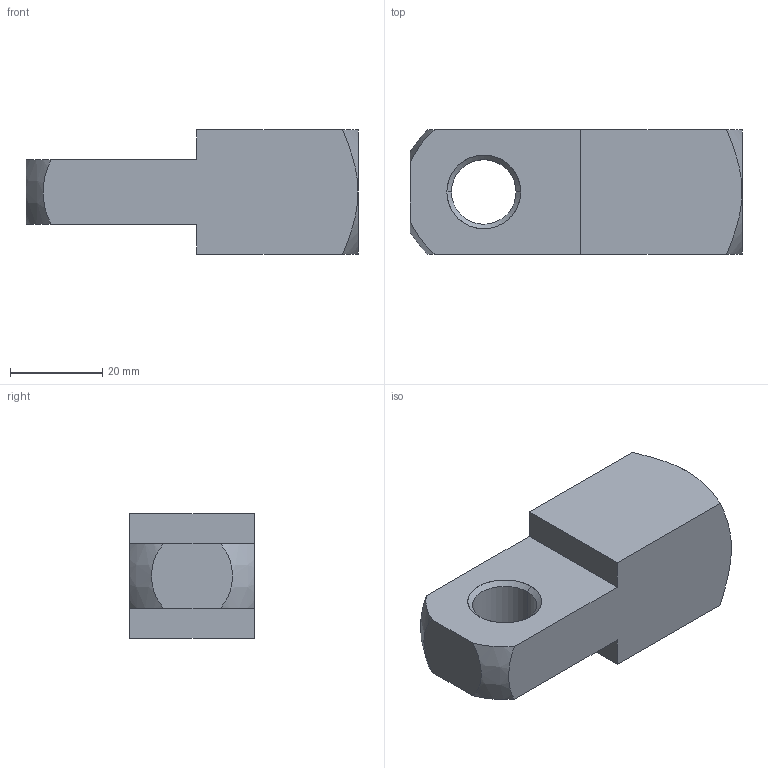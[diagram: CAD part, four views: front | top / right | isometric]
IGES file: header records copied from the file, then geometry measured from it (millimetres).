
Start section: SolidWorks IGES file using analytic representation for surfaces
Global section: file name: C:\Documents and Settings\IANO\My Documents\Wix and Auto CAD Work\CAD Models\Parametric Models\Wix Models\60000\65653_v2\65653_v2_IGES\65653.W1014.igs; native system: SolidWorks 2009; preprocessor: SolidWorks 2009; author: IANO; date: 140122.121744; units: millimetre
Bounding box: 72 x 27 x 27 mm (x, y, z)
Surface area: 9636 mm2 (no closed solid volume)
Topology: 0 solids, 0 shells, 31 faces, 472 edges, 470 vertices
Faces by surface type: revolution 18, bspline 13
